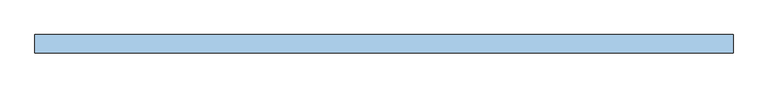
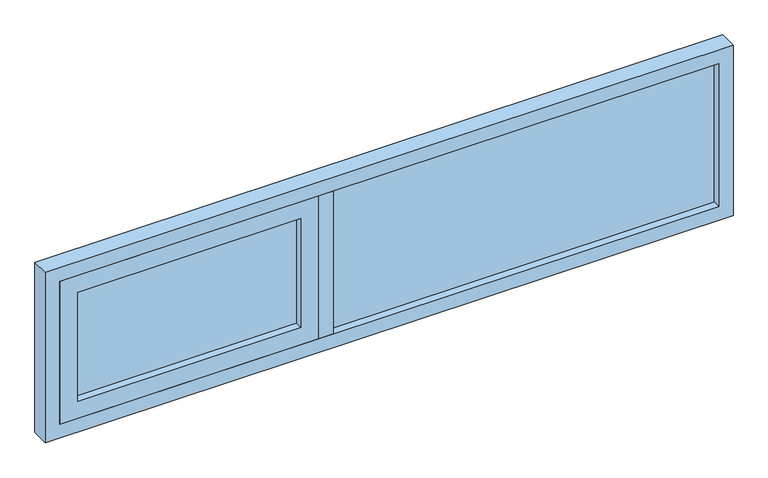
"""IFC4 building model written with IfcOpenShell, lengths in millimetres: window geometry, VENT_ALUM_PROY_LATERAL : VD-5 / PROYECC LATERAL LAVADO 1.91 X 0.5."""

from ifc_helpers import new_model, si_unit, frame, origin, place, context, project, spatial, polyline, outline, extrude, source, transform, mapped, element, save


def window_ca11349c(model_context):
    return source(origin(), model_context, "Body", "SweptSolid", [
        extrude(outline(polyline([(1202.5, 3.0), (1202.5, -3.0), (132.5, -3.0), (132.5, 3.0), (1202.5, 3.0)])), frame((0.0, 0.0, 2040.0), z_axis=(0.0, 0.0, 1.0), x_axis=(1.0, 0.0, 0.0)), (0.0, 0.0, 1.0), 420.0),
        extrude(outline(polyline([(2500.0, -667.5), (2000.0, -667.5), (2000.0, 1242.5), (2500.0, 1242.5), (2500.0, -667.5)]), holes=[polyline([(2040.0, -627.5), (2460.0, -627.5), (2460.0, 1202.5), (2040.0, 1202.5), (2040.0, -627.5)])]), frame((0.0, -25.0, 0.0), z_axis=(0.0, 1.0, 0.0), x_axis=(0.0, 0.0, 1.0)), (0.0, 0.0, 1.0), 50.0),
        extrude(outline(polyline([(92.5, -25.0), (92.5, 25.0), (132.5, 25.0), (132.5, -25.0), (92.5, -25.0)])), frame((0.0, 0.0, 2040.0), z_axis=(0.0, 0.0, 1.0), x_axis=(1.0, 0.0, 0.0)), (0.0, 0.0, 1.0), 420.0),
        extrude(outline(polyline([(42.5, 3.0), (42.5, -3.0), (-577.5, -3.0), (-577.5, 3.0), (42.5, 3.0)])), frame((0.0, 0.0, 2080.0), z_axis=(0.0, 0.0, 1.0), x_axis=(1.0, 0.0, 0.0)), (0.0, 0.0, 1.0), 330.0),
        extrude(outline(polyline([(2460.0, -627.5), (2040.0, -627.5), (2040.0, 92.5), (2460.0, 92.5), (2460.0, -627.5)]), holes=[polyline([(2090.0, -577.5), (2410.0, -577.5), (2410.0, 42.5), (2090.0, 42.5), (2090.0, -577.5)])]), frame((0.0, -25.0, 0.0), z_axis=(0.0, 1.0, 0.0), x_axis=(0.0, 0.0, 1.0)), (0.0, 0.0, 1.0), 50.0),
    ])


if __name__ == "__main__":
    model = new_model("IFC4")
    model_context = context("Model", 3, world=origin())
    ifc_project = project(units=[si_unit("LENGTHUNIT", "METRE", prefix="MILLI")], contexts=[model_context])
    site = spatial("IfcSite", under=ifc_project)
    building = spatial("IfcBuilding", under=site)
    placement = place(None, origin())
    window_shape = window_ca11349c(model_context)
    element("IfcWindow", 1, ObjectType="VENT_ALUM_PROY_LATERAL : VD-5 / PROYECC LATERAL LAVADO 1.91 X 0.5", at=placement, inside=building, context=model_context, shape_type="MappedRepresentation", body=[
        mapped(window_shape, transform((0.0, 0.0, 0.0), x_axis=(1.0, 0.0, 0.0), y_axis=(0.0, 1.0, 0.0), z_axis=(0.0, 0.0, 1.0))),
    ])
    save(model, "model.ifc")
